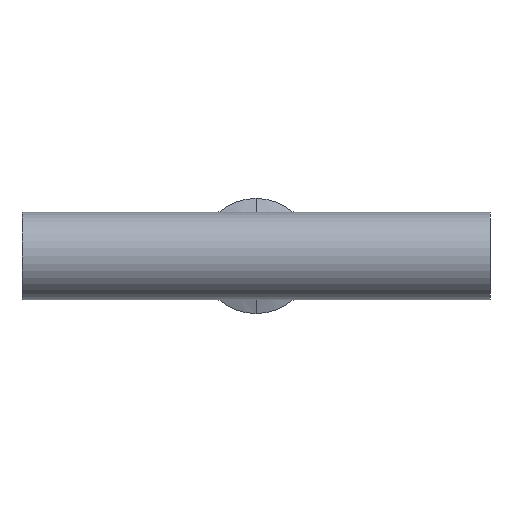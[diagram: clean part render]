
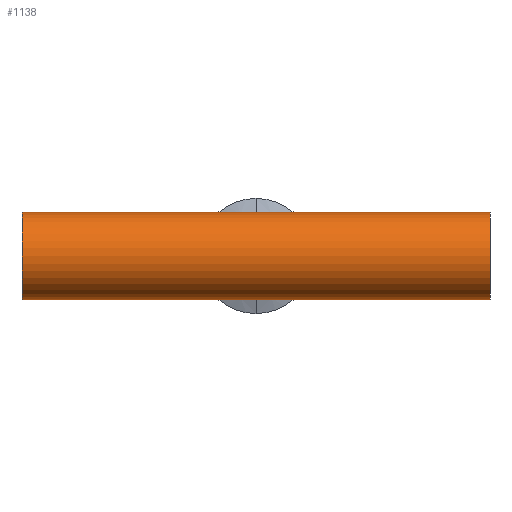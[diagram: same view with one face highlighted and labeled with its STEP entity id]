
A CAD part, front view. The second image highlights one B-rep face of the part: STEP entity #1138.
In plain terms, the highlighted cylindrical face has radius 9.525 mm (diameter 19.05 mm), a partial arc.
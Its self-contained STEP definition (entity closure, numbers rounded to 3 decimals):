
#23 = EDGE_CURVE ( 'NONE', #1315, #205, #1220, .T. ) ;
#62 = DIRECTION ( 'NONE',  ( 0., 0., -1. ) ) ;
#78 = CARTESIAN_POINT ( 'NONE',  ( 50.8, 0., 9.525 ) ) ;
#104 = CYLINDRICAL_SURFACE ( 'NONE', #1289, 9.525 ) ;
#176 = CIRCLE ( 'NONE', #822, 9.525 ) ;
#188 = CARTESIAN_POINT ( 'NONE',  ( 50.8, 0., -9.525 ) ) ;
#205 = VERTEX_POINT ( 'NONE', #78 ) ;
#234 = VECTOR ( 'NONE', #910, 1000. ) ;
#242 = CARTESIAN_POINT ( 'NONE',  ( 50.8, 0., 0. ) ) ;
#295 = DIRECTION ( 'NONE',  ( 1., 0., 0. ) ) ;
#296 = EDGE_CURVE ( 'NONE', #751, #784, #176, .T. ) ;
#371 = CARTESIAN_POINT ( 'NONE',  ( -50.8, 0., 0. ) ) ;
#438 = LINE ( 'NONE', #885, #1005 ) ;
#528 = DIRECTION ( 'NONE',  ( 0., 0., -1. ) ) ;
#628 = CARTESIAN_POINT ( 'NONE',  ( -50.8, 0., 9.525 ) ) ;
#725 = FACE_OUTER_BOUND ( 'NONE', #735, .T. ) ;
#733 = EDGE_CURVE ( 'NONE', #751, #205, #858, .T. ) ;
#735 = EDGE_LOOP ( 'NONE', ( #1226, #1140, #1127, #1065 ) ) ;
#751 = VERTEX_POINT ( 'NONE', #1301 ) ;
#784 = VERTEX_POINT ( 'NONE', #1259 ) ;
#822 = AXIS2_PLACEMENT_3D ( 'NONE', #1200, #1161, #62 ) ;
#858 = LINE ( 'NONE', #628, #234 ) ;
#885 = CARTESIAN_POINT ( 'NONE',  ( -50.8, 0., -9.525 ) ) ;
#910 = DIRECTION ( 'NONE',  ( 1., 0., 0. ) ) ;
#934 = EDGE_CURVE ( 'NONE', #784, #1315, #438, .T. ) ;
#942 = DIRECTION ( 'NONE',  ( 0., 0., -1. ) ) ;
#1005 = VECTOR ( 'NONE', #1125, 1000. ) ;
#1015 = DIRECTION ( 'NONE',  ( -1., 0., 0. ) ) ;
#1065 = ORIENTED_EDGE ( 'NONE', *, *, #23, .T. ) ;
#1125 = DIRECTION ( 'NONE',  ( 1., 0., 0. ) ) ;
#1127 = ORIENTED_EDGE ( 'NONE', *, *, #934, .T. ) ;
#1138 = ADVANCED_FACE ( 'NONE', ( #725 ), #104, .T. ) ;
#1140 = ORIENTED_EDGE ( 'NONE', *, *, #296, .T. ) ;
#1161 = DIRECTION ( 'NONE',  ( 1., 0., 0. ) ) ;
#1168 = AXIS2_PLACEMENT_3D ( 'NONE', #242, #1015, #942 ) ;
#1200 = CARTESIAN_POINT ( 'NONE',  ( -50.8, 0., 0. ) ) ;
#1220 = CIRCLE ( 'NONE', #1168, 9.525 ) ;
#1226 = ORIENTED_EDGE ( 'NONE', *, *, #733, .F. ) ;
#1259 = CARTESIAN_POINT ( 'NONE',  ( -50.8, 0., -9.525 ) ) ;
#1289 = AXIS2_PLACEMENT_3D ( 'NONE', #371, #295, #528 ) ;
#1301 = CARTESIAN_POINT ( 'NONE',  ( -50.8, 0., 9.525 ) ) ;
#1315 = VERTEX_POINT ( 'NONE', #188 ) ;
